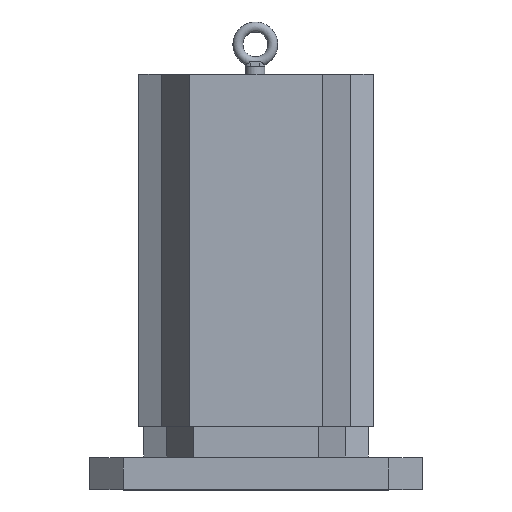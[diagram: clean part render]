
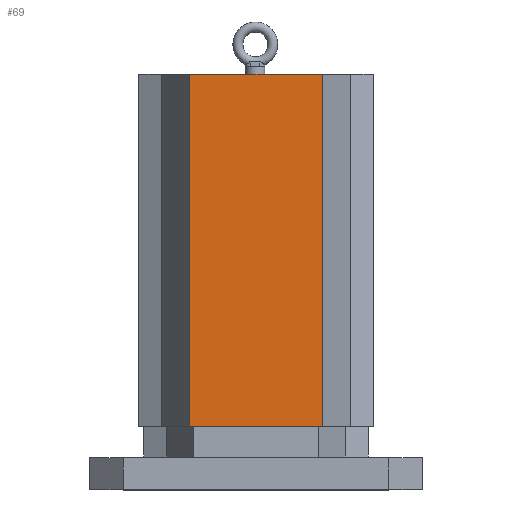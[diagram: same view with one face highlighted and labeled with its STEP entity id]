
A CAD part, top view. The second image highlights one B-rep face of the part: STEP entity #69.
In plain terms, the highlighted planar face has unit normal (0, 0, 1) as drawn and (0, 0, -1) by its records, which use the part's own axes.
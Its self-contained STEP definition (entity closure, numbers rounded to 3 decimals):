
#5 = DIRECTION ( 'NONE',  ( 0., 0., -1. ) ) ;
#69 = ADVANCED_FACE ( 'NONE', ( #9307 ), #8481, .T. ) ;
#458 = DIRECTION ( 'NONE',  ( 0., -1., 0. ) ) ;
#886 = DIRECTION ( 'NONE',  ( 1., 0., 0. ) ) ;
#1884 = ORIENTED_EDGE ( 'NONE', *, *, #8040, .F. ) ;
#2175 = CARTESIAN_POINT ( 'NONE',  ( 79.756, 462., -116.992 ) ) ;
#2899 = CARTESIAN_POINT ( 'NONE',  ( -79.756, 38.1, -116.992 ) ) ;
#3195 = VERTEX_POINT ( 'NONE', #2175 ) ;
#4008 = LINE ( 'NONE', #6410, #6922 ) ;
#4187 = VECTOR ( 'NONE', #886, 1000. ) ;
#4412 = ORIENTED_EDGE ( 'NONE', *, *, #4775, .T. ) ;
#4528 = EDGE_CURVE ( 'NONE', #10125, #6825, #8522, .T. ) ;
#4775 = EDGE_CURVE ( 'NONE', #8436, #3195, #7179, .T. ) ;
#5058 = VECTOR ( 'NONE', #10848, 1000. ) ;
#5113 = CARTESIAN_POINT ( 'NONE',  ( 79.756, 38.1, -116.992 ) ) ;
#6338 = CARTESIAN_POINT ( 'NONE',  ( -79.756, 462., -116.992 ) ) ;
#6377 = ORIENTED_EDGE ( 'NONE', *, *, #4528, .F. ) ;
#6410 = CARTESIAN_POINT ( 'NONE',  ( 79.756, 653.126, -116.992 ) ) ;
#6550 = CARTESIAN_POINT ( 'NONE',  ( -79.756, 653.126, -116.992 ) ) ;
#6749 = DIRECTION ( 'NONE',  ( -1., 0., 0. ) ) ;
#6825 = VERTEX_POINT ( 'NONE', #5113 ) ;
#6922 = VECTOR ( 'NONE', #458, 1000. ) ;
#7179 = LINE ( 'NONE', #6338, #8457 ) ;
#7456 = LINE ( 'NONE', #6550, #5058 ) ;
#7648 = CARTESIAN_POINT ( 'NONE',  ( -79.756, 653.126, -116.992 ) ) ;
#8040 = EDGE_CURVE ( 'NONE', #8436, #10125, #7456, .T. ) ;
#8436 = VERTEX_POINT ( 'NONE', #8958 ) ;
#8457 = VECTOR ( 'NONE', #9736, 1000. ) ;
#8481 = PLANE ( 'NONE',  #10441 ) ;
#8522 = LINE ( 'NONE', #10131, #4187 ) ;
#8958 = CARTESIAN_POINT ( 'NONE',  ( -79.756, 462., -116.992 ) ) ;
#9307 = FACE_OUTER_BOUND ( 'NONE', #9704, .T. ) ;
#9465 = EDGE_CURVE ( 'NONE', #3195, #6825, #4008, .T. ) ;
#9704 = EDGE_LOOP ( 'NONE', ( #1884, #4412, #10541, #6377 ) ) ;
#9736 = DIRECTION ( 'NONE',  ( 1., 0., 0. ) ) ;
#10125 = VERTEX_POINT ( 'NONE', #2899 ) ;
#10131 = CARTESIAN_POINT ( 'NONE',  ( -79.756, 38.1, -116.992 ) ) ;
#10441 = AXIS2_PLACEMENT_3D ( 'NONE', #7648, #5, #6749 ) ;
#10541 = ORIENTED_EDGE ( 'NONE', *, *, #9465, .T. ) ;
#10848 = DIRECTION ( 'NONE',  ( 0., -1., 0. ) ) ;
